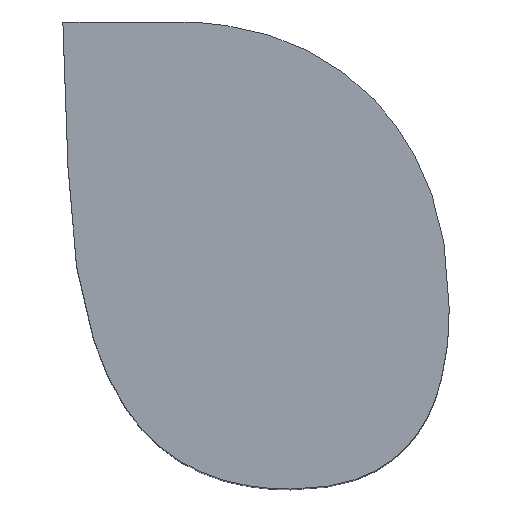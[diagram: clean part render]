
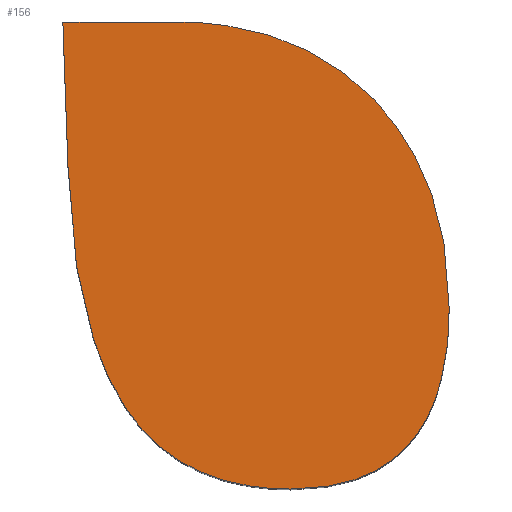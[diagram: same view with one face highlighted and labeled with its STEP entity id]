
A CAD part, top view. The second image highlights one B-rep face of the part: STEP entity #156.
In plain terms, the highlighted planar face has unit normal (0, 0, 1).
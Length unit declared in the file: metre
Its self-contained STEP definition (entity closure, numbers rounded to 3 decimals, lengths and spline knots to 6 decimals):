
#22=B_SPLINE_CURVE_WITH_KNOTS('',2,(#231,#232,#233),.UNSPECIFIED.,.F.,.F.,(3,3),(0.,1.),.PIECEWISE_BEZIER_KNOTS.);
#23=B_SPLINE_CURVE_WITH_KNOTS('',2,(#246,#247,#248),.UNSPECIFIED.,.F.,.F.,(3,3),(0.,1.),.PIECEWISE_BEZIER_KNOTS.);
#24=B_SPLINE_CURVE_WITH_KNOTS('',2,(#259,#260,#261),.UNSPECIFIED.,.F.,.F.,(3,3),(0.,1.),.PIECEWISE_BEZIER_KNOTS.);
#25=B_SPLINE_CURVE_WITH_KNOTS('',2,(#272,#273,#274),.UNSPECIFIED.,.F.,.F.,(3,3),(0.,1.),.PIECEWISE_BEZIER_KNOTS.);
#26=B_SPLINE_CURVE_WITH_KNOTS('',2,(#285,#286,#287),.UNSPECIFIED.,.F.,.F.,(3,3),(0.,1.),.PIECEWISE_BEZIER_KNOTS.);
#62=ORIENTED_EDGE('',*,*,#88,.T.);
#63=ORIENTED_EDGE('',*,*,#89,.T.);
#64=ORIENTED_EDGE('',*,*,#77,.T.);
#65=ORIENTED_EDGE('',*,*,#80,.T.);
#66=ORIENTED_EDGE('',*,*,#82,.T.);
#67=ORIENTED_EDGE('',*,*,#84,.T.);
#68=ORIENTED_EDGE('',*,*,#86,.T.);
#77=EDGE_CURVE('',#98,#97,#22,.T.);
#80=EDGE_CURVE('',#97,#99,#23,.T.);
#82=EDGE_CURVE('',#99,#100,#24,.T.);
#84=EDGE_CURVE('',#100,#101,#25,.T.);
#86=EDGE_CURVE('',#101,#102,#26,.T.);
#88=EDGE_CURVE('',#102,#103,#113,.T.);
#89=EDGE_CURVE('',#103,#98,#114,.T.);
#97=VERTEX_POINT('',#230);
#98=VERTEX_POINT('',#234);
#99=VERTEX_POINT('',#245);
#100=VERTEX_POINT('',#258);
#101=VERTEX_POINT('',#271);
#102=VERTEX_POINT('',#284);
#103=VERTEX_POINT('',#290);
#113=LINE('',#291,#124);
#114=LINE('',#293,#125);
#124=VECTOR('',#189,1.);
#125=VECTOR('',#192,1.);
#134=EDGE_LOOP('',(#62,#63,#64,#65,#66,#67,#68));
#143=FACE_BOUND('',#134,.T.);
#147=PLANE('',#173);
#156=ADVANCED_FACE('',(#143),#147,.T.);
#173=AXIS2_PLACEMENT_3D('',#294,#193,#194);
#189=DIRECTION('',(-1.,0.,0.));
#192=DIRECTION('',(0.035,-0.999,0.));
#193=DIRECTION('',(0.,0.,1.));
#194=DIRECTION('',(1.,0.,0.));
#230=CARTESIAN_POINT('',(-0.042813,0.026199,0.0015));
#231=CARTESIAN_POINT('',(-0.042976,0.026871,0.0015));
#232=CARTESIAN_POINT('',(-0.042963,0.026419,0.0015));
#233=CARTESIAN_POINT('',(-0.042813,0.026199,0.0015));
#234=CARTESIAN_POINT('',(-0.042976,0.026871,0.0015));
#245=CARTESIAN_POINT('',(-0.042359,0.025979,0.0015));
#246=CARTESIAN_POINT('',(-0.042813,0.026199,0.0015));
#247=CARTESIAN_POINT('',(-0.042664,0.025979,0.0015));
#248=CARTESIAN_POINT('',(-0.042359,0.025979,0.0015));
#258=CARTESIAN_POINT('',(-0.041921,0.02648,0.0015));
#259=CARTESIAN_POINT('',(-0.042359,0.025979,0.0015));
#260=CARTESIAN_POINT('',(-0.041921,0.025979,0.0015));
#261=CARTESIAN_POINT('',(-0.041921,0.02648,0.0015));
#271=CARTESIAN_POINT('',(-0.042128,0.027056,0.0015));
#272=CARTESIAN_POINT('',(-0.041921,0.02648,0.0015));
#273=CARTESIAN_POINT('',(-0.041921,0.02684,0.0015));
#274=CARTESIAN_POINT('',(-0.042128,0.027056,0.0015));
#284=CARTESIAN_POINT('',(-0.042677,0.027271,0.0015));
#285=CARTESIAN_POINT('',(-0.042128,0.027056,0.0015));
#286=CARTESIAN_POINT('',(-0.042335,0.027271,0.0015));
#287=CARTESIAN_POINT('',(-0.042677,0.027271,0.0015));
#290=CARTESIAN_POINT('',(-0.04299,0.027271,0.0015));
#291=CARTESIAN_POINT('',(-0.042833,0.027271,0.0015));
#293=CARTESIAN_POINT('',(-0.042983,0.027071,0.0015));
#294=CARTESIAN_POINT('',(-0.014086,0.020475,0.0015));
